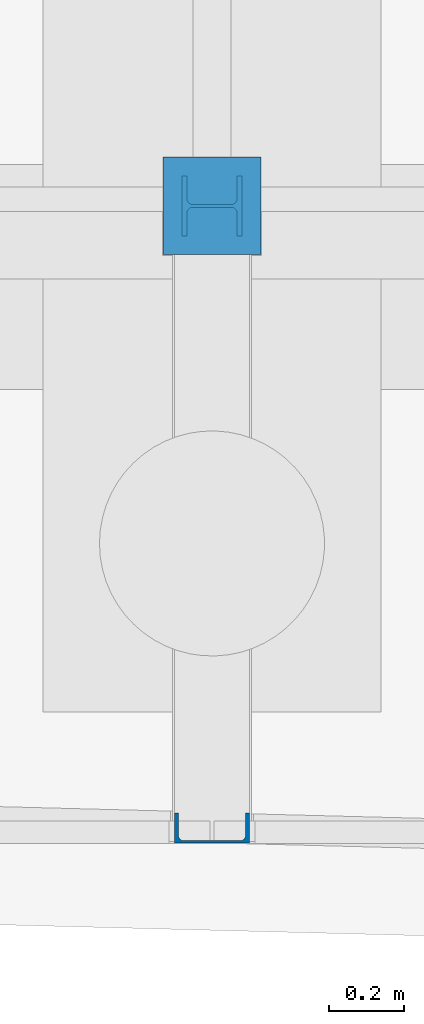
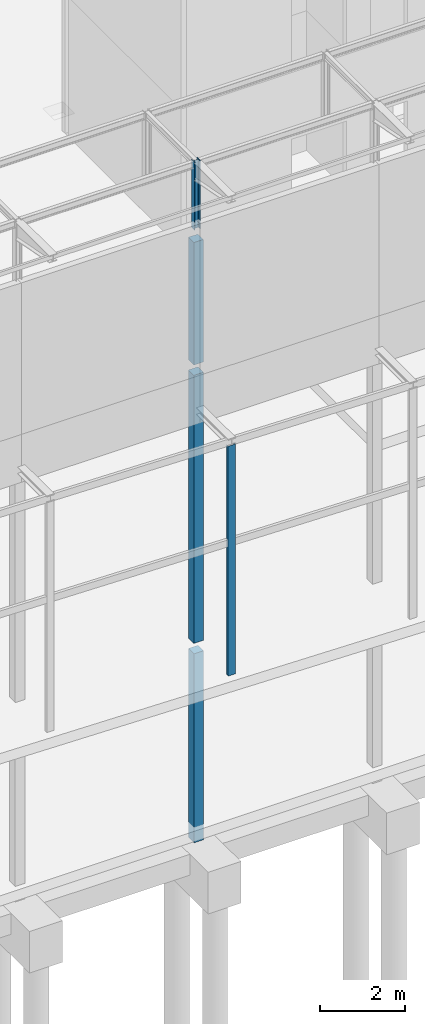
# One storey, part 36 of 82: 5 columns.
"""IFC2X3 building model written with IfcOpenShell, lengths in millimetres."""

from ifc_helpers import new_model, si_unit, frame, frame_2d, origin_with_axes, place, context, subcontext, project, spatial, rectangle, i_section, u_section, extrude, material, type_object, element, save


model = new_model("IFC2X3")

# Units and contexts
model_context = context("Model", 3, precision=1e-05, world=origin_with_axes())
body_context = subcontext(model_context, "Body", "Model", "MODEL_VIEW")
ifc_project = project(units=[si_unit("LENGTHUNIT", "METRE", prefix="MILLI"), si_unit("AREAUNIT", "SQUARE_METRE"), si_unit("VOLUMEUNIT", "CUBIC_METRE"), si_unit("MASSUNIT", "GRAM", prefix="KILO"), si_unit("TIMEUNIT", "SECOND"), si_unit("PLANEANGLEUNIT", "RADIAN"), si_unit("SOLIDANGLEUNIT", "STERADIAN"), si_unit("THERMODYNAMICTEMPERATUREUNIT", "DEGREE_CELSIUS"), si_unit("LUMINOUSINTENSITYUNIT", "LUMEN")], contexts=[model_context])

# Site, building, storey
site_placement = place(None, origin_with_axes())
site = spatial("IfcSite", under=ifc_project, at=site_placement, Name="Undefined", CompositionType="ELEMENT")
building_placement = place(site_placement, origin_with_axes())
building = spatial("IfcBuilding", under=site, at=building_placement, Name="Undefined", CompositionType="ELEMENT")
storey_placement = place(building_placement, origin_with_axes())
storey = spatial("IfcBuildingStorey", under=building, at=storey_placement, Name="Undefined", CompositionType="ELEMENT", Elevation=0.0)

# Columns
ifc_material_1 = material(Name="CONCRETE/C25/30")
column_type_1 = type_object("IfcColumnType", Name="260*260", PredefinedType="NOTDEFINED")
column_1_placement = place(storey_placement, frame((42224.9999999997, -3.82087534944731e-08, 13330.0), z_axis=(0.0, 0.0, 1.0), x_axis=(1.0, 0.0, 0.0)))
element("IfcColumn", 1, at=column_1_placement, inside=storey, type_object=column_type_1, material=ifc_material_1, Name="POTEAU", ObjectType="260*260", context=body_context, shape_type="SweptSolid", body=[
    extrude(rectangle(XDim=260.0, YDim=260.0, at=frame_2d((5.17284206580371e-08, 4.49290382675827e-10), x_axis=(1.0, 0.0))), frame((0.0, 0.0, 3529.99999999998), z_axis=(0.0, -6.50000002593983e-08, -0.999999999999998), x_axis=(-1.0, 0.0, 0.0)), (0.0, 0.0, 1.0), 3530.0),
])
column_2_placement = place(storey_placement, frame((42224.9999999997, -3.82087534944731e-08, 5300.0), z_axis=(0.0, 0.0, 1.0), x_axis=(1.0, 0.0, 0.0)))
element("IfcColumn", 2, at=column_2_placement, inside=storey, type_object=column_type_1, material=ifc_material_1, Name="POTEAU", ObjectType="260*260", context=body_context, shape_type="SweptSolid", body=[
    extrude(rectangle(XDim=260.0, YDim=260.0, at=frame_2d((5.17284206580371e-08, 4.49290382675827e-10), x_axis=(1.0, 0.0))), frame((0.0, 0.0, 7730.0), z_axis=(0.0, -6.50000002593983e-08, -0.999999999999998), x_axis=(-1.0, 0.0, 0.0)), (0.0, 0.0, 1.0), 7730.0),
])
column_3_placement = place(storey_placement, frame((42224.9999999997, -3.82087534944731e-08, -450.0), z_axis=(0.0, 0.0, 1.0), x_axis=(1.0, 0.0, 0.0)))
element("IfcColumn", 3, at=column_3_placement, inside=storey, type_object=column_type_1, material=ifc_material_1, Name="POTEAU", ObjectType="260*260", context=body_context, shape_type="SweptSolid", body=[
    extrude(rectangle(XDim=260.0, YDim=260.0, at=frame_2d((5.17284206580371e-08, 4.49290382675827e-10), x_axis=(1.0, 0.0))), frame((0.0, 0.0, 5450.00000000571), z_axis=(0.0, -6.50000002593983e-08, -0.999999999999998), x_axis=(-1.0, 0.0, 0.0)), (0.0, 0.0, 1.0), 5450.0),
])
ifc_material_2 = material(Name="STEEL/S275JR")
column_type_2 = type_object("IfcColumnType", Name="HEB160", PredefinedType="NOTDEFINED")
column_4_placement = place(storey_placement, frame((42225.0000000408, -7.65571428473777e-08, 17160.0), z_axis=(0.0, 0.0, 1.0), x_axis=(1.0, 0.0, 0.0)))
element("IfcColumn", 4, at=column_4_placement, inside=storey, type_object=column_type_2, material=ifc_material_2, Name="POTEAU", ObjectType="HEB160", context=body_context, shape_type="SweptSolid", body=[
    extrude(i_section(OverallWidth=160.0, OverallDepth=160.0, WebThickness=8.0, FlangeThickness=13.0, FilletRadius=15.0, at=frame_2d((5.17284206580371e-08, 4.49290382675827e-10), x_axis=(1.0, 0.0))), frame((0.0, 0.0, 1965.0), z_axis=(0.0, -6.50000002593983e-08, -0.999999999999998), x_axis=(-2.77555756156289e-17, -1.0, 0.0)), (0.0, 0.0, 1.0), 1965.0),
])
column_type_3 = type_object("IfcColumnType", Name="UPE200", PredefinedType="NOTDEFINED")
column_5_placement = place(storey_placement, frame((42225.0033637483, -1658.2453928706, 5300.00000000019), z_axis=(0.0, 0.0, 1.0), x_axis=(1.0, 0.0, 0.0)))
element("IfcColumn", 5, at=column_5_placement, inside=storey, type_object=column_type_3, material=ifc_material_2, Name="POUTRE", ObjectType="UPE200", context=body_context, shape_type="SweptSolid", body=[
    extrude(u_section(Depth=200.0, FlangeWidth=80.0, WebThickness=6.0, FlangeThickness=11.0, FilletRadius=13.0, at=frame_2d((5.17284206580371e-08, 4.49290382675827e-10), x_axis=(1.0, 0.0))), frame((0.0, 0.0, 6625.00000000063), z_axis=(0.0, -6.50000002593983e-08, -0.999999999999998), x_axis=(0.0, 1.0, 0.0)), (0.0, 0.0, 1.0), 6625.0),
])

save(model, "model.ifc")
